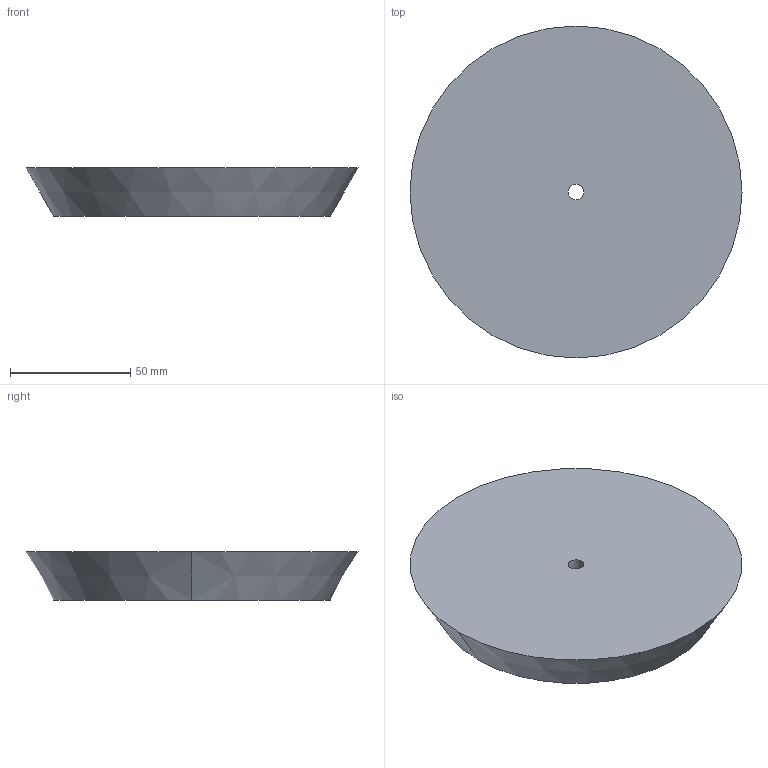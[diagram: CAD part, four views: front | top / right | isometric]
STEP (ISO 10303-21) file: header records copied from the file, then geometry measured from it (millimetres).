
FILE_DESCRIPTION(('CATIA V5 STEP Exchange'),'2;1');
FILE_NAME('C:\Users\andres.garcia\OneDrive - IQS\ASIGNATURAS\DAO\Controles\2223\c0\c1-GRUGUES_Marc-tapon.stp','2023-02-03T08:22:04+00:00',('none'),('none'),'CATIA Version 5-6 Release 2013 SP6','CATIA V5 STEP AP203','none');
FILE_SCHEMA(('CONFIG_CONTROL_DESIGN'));
Length unit declared in the file: millimetre
Products named in the file (1): c1-GRUGUES_Marc-tapon
Bounding box: 138 x 138 x 20 mm (x, y, z)
Volume: 251210.5 mm3; surface area: 34843.5 mm2
Topology: 1 solids, 1 shells, 6 faces, 12 edges, 8 vertices
Faces by surface type: cylinder 2, plane 2, cone 2
Entity records: 196 total; most frequent: CARTESIAN_POINT 26, ORIENTED_EDGE 24, DIRECTION 22, AXIS2_PLACEMENT_3D 14, EDGE_CURVE 12, CIRCLE 8, EDGE_LOOP 8, VERTEX_POINT 8
